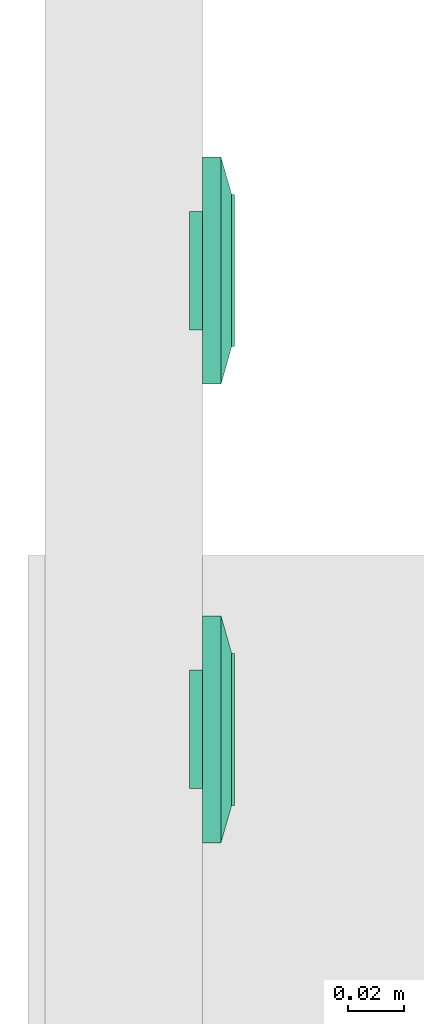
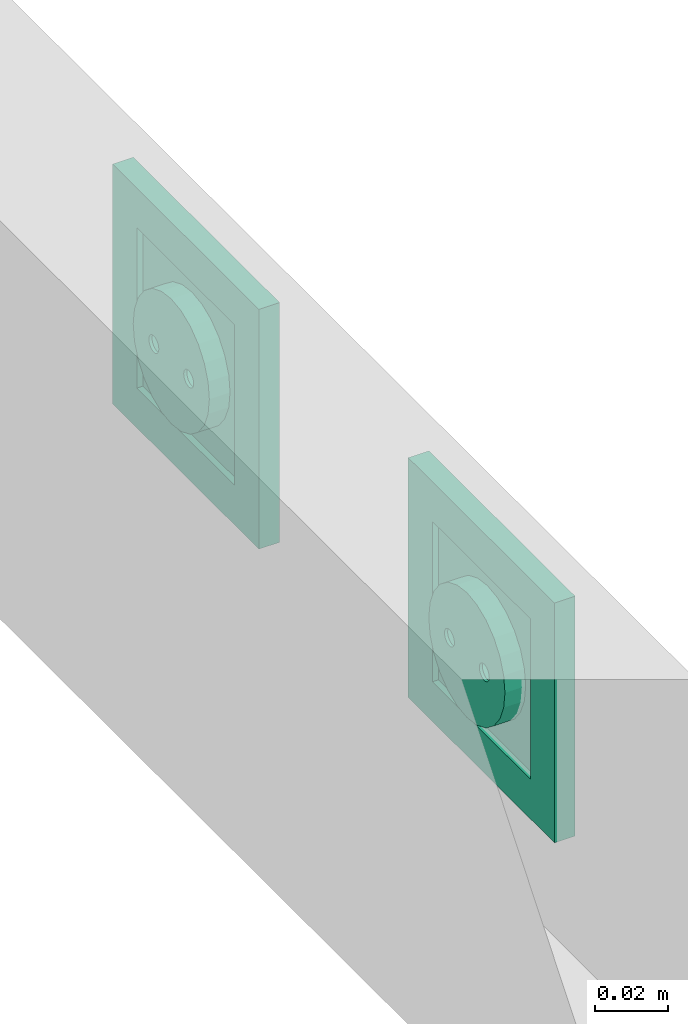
# One storey, part 24 of 166: 2 flow terminals.
"""IFC2X3 building model written with IfcOpenShell, lengths in metres."""

from ifc_helpers import new_model, entity, si_unit, converted_unit, derived_unit, direction, frame, origin, place, context, subcontext, project, spatial, face_set, surface_model, source, transform, mapped, type_object, type_shapes, element, save


model = new_model("IFC2X3")

# Units and contexts
model_context = context("Model", 3, precision=1e-05, world=origin(), true_north=direction((6.12303176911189e-17, 1.0)))
body_context = subcontext(model_context, "Body", "Model", "MODEL_VIEW")
ifc_project = project(units=[si_unit("LENGTHUNIT", "METRE"), si_unit("AREAUNIT", "SQUARE_METRE"), si_unit("VOLUMEUNIT", "CUBIC_METRE"), converted_unit("PLANEANGLEUNIT", "DEGREE", entity("IfcRatioMeasure", 0.0174532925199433), si_unit("PLANEANGLEUNIT", "RADIAN"), dimensions=[0, 0, 0, 0, 0, 0, 0]), si_unit("MASSUNIT", "GRAM", prefix="KILO"), derived_unit("MASSDENSITYUNIT", [(si_unit("MASSUNIT", "GRAM", prefix="KILO"), 1), (si_unit("LENGTHUNIT", "METRE"), -3)]), si_unit("TIMEUNIT", "SECOND"), si_unit("FREQUENCYUNIT", "HERTZ"), si_unit("THERMODYNAMICTEMPERATUREUNIT", "DEGREE_CELSIUS"), derived_unit("THERMALTRANSMITTANCEUNIT", [(si_unit("MASSUNIT", "GRAM", prefix="KILO"), 1), (si_unit("THERMODYNAMICTEMPERATUREUNIT", "KELVIN"), -1), (si_unit("TIMEUNIT", "SECOND"), -3)]), derived_unit("VOLUMETRICFLOWRATEUNIT", [(si_unit("LENGTHUNIT", "METRE"), 3), (si_unit("TIMEUNIT", "SECOND"), -1)]), si_unit("ELECTRICCURRENTUNIT", "AMPERE"), si_unit("ELECTRICVOLTAGEUNIT", "VOLT"), si_unit("POWERUNIT", "WATT"), si_unit("FORCEUNIT", "NEWTON"), si_unit("ILLUMINANCEUNIT", "LUX"), si_unit("LUMINOUSFLUXUNIT", "LUMEN"), si_unit("LUMINOUSINTENSITYUNIT", "CANDELA"), derived_unit("USERDEFINED", [(si_unit("MASSUNIT", "GRAM", prefix="KILO"), -1), (si_unit("LENGTHUNIT", "METRE"), -2), (si_unit("TIMEUNIT", "SECOND"), 3), (si_unit("LUMINOUSFLUXUNIT", "LUMEN"), 1)]), derived_unit("LINEARVELOCITYUNIT", [(si_unit("LENGTHUNIT", "METRE"), 1), (si_unit("TIMEUNIT", "SECOND"), -1)]), si_unit("PRESSUREUNIT", "PASCAL"), derived_unit("USERDEFINED", [(si_unit("LENGTHUNIT", "METRE"), -2), (si_unit("MASSUNIT", "GRAM", prefix="KILO"), 1), (si_unit("TIMEUNIT", "SECOND"), -2)])], contexts=[model_context])

# Site, building, storey
site_placement = place(None, origin())
site = spatial("IfcSite", under=ifc_project, at=site_placement, Name="Default", CompositionType="ELEMENT")
building_placement = place(site_placement, origin())
building = spatial("IfcBuilding", under=site, at=building_placement, CompositionType="ELEMENT")
storey_placement = place(building_placement, frame((0.0, 0.0, 4.27)))
storey = spatial("IfcBuildingStorey", under=building, at=storey_placement, Name="01", CompositionType="ELEMENT", Elevation=4.27)

# Flow terminals
light_fixture_type = type_object("IfcLightFixtureType", Name="IP20 ONDULEE", PredefinedType="NOTDEFINED")
shared_shape = source(origin(), body_context, "Body", "SurfaceModel", [
    surface_model("IfcFaceBasedSurfaceModel", [(-0.00225000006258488, 0.0127499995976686, 0.00949633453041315), (0.0, 0.0104999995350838, 0.00949633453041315), (0.0, 0.0115376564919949, 0.0101656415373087), (0.0, 0.0139623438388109, 0.0101656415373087), (0.0, 0.0144589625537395, 0.00984531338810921), (0.0, 0.0121178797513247, 0.0102778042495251), (0.0, 0.0133821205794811, 0.0102778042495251), (0.0, 0.0127499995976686, 0.010399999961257), (0.0, 0.0149999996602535, 0.00949633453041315), (0.00225000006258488, 0.0127499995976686, 0.00949633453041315), (0.0, 0.0110410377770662, 0.00984531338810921), (0.0, 0.0127499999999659, 0.00949633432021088), (0.00225000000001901, 0.0127499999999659, 0.00949633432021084), (0.00217333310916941, 0.0121676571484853, 0.00949633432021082), (0.00194855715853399, 0.0116249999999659, 0.00949633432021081), (0.00159099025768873, 0.0111590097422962, 0.00949633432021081), (0.001125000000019, 0.010801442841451, 0.00949633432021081), (0.00058234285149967, 0.0105766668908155, 0.00949633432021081), (0.0, 0.0104999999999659, 0.00949633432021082), (-0.000582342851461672, 0.0105766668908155, 0.00949633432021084), (-0.001124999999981, 0.010801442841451, 0.00949633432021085), (-0.00159099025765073, 0.0111590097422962, 0.00949633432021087), (-0.00194855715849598, 0.011624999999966, 0.00949633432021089), (-0.0021733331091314, 0.0121676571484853, 0.00949633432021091), (-0.00224999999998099, 0.012749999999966, 0.00949633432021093), (-0.00217333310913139, 0.0133323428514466, 0.00949633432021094), (-0.00194855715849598, 0.013874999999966, 0.00949633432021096), (-0.00159099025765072, 0.0143409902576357, 0.00949633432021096), (-0.00112499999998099, 0.0146985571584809, 0.00949633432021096), (-0.00058234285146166, 0.0149233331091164, 0.00949633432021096), (0.0, 0.0149999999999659, 0.00949633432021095), (0.000582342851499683, 0.0149233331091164, 0.00949633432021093), (0.00112500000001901, 0.0146985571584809, 0.00949633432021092), (0.00159099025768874, 0.0143409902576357, 0.00949633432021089), (0.001948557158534, 0.0138749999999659, 0.00949633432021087), (0.00217333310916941, 0.0133323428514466, 0.00949633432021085), (0.00225000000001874, 0.0127499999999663, -0.00360000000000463), (0.00217333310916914, 0.0121676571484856, -0.00360000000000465), (0.00194855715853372, 0.0116249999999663, -0.00360000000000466), (0.00159099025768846, 0.0111590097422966, -0.00360000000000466), (0.00112500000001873, 0.0108014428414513, -0.00360000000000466), (0.000582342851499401, 0.0105766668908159, -0.00360000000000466), (0.0, 0.0104999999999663, -0.00360000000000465), (-0.000582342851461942, 0.0105766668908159, -0.00360000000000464), (-0.00112499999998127, 0.0108014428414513, -0.00360000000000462), (-0.001590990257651, 0.0111590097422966, -0.0036000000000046), (-0.00194855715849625, 0.0116249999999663, -0.00360000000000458), (-0.00217333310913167, 0.0121676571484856, -0.00360000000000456), (-0.00224999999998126, 0.0127499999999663, -0.00360000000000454), (-0.00217333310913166, 0.013332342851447, -0.00360000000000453), (-0.00194855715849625, 0.0138749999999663, -0.00360000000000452), (-0.00159099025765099, 0.014340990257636, -0.00360000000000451), (-0.00112499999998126, 0.0146985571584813, -0.00360000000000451), (-0.000582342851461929, 0.0149233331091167, -0.00360000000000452), (0.0, 0.0149999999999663, -0.00360000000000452), (0.000582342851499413, 0.0149233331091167, -0.00360000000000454), (0.00112500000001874, 0.0146985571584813, -0.00360000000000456), (0.00159099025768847, 0.014340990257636, -0.00360000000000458), (0.00194855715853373, 0.0138749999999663, -0.0036000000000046), (0.00217333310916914, 0.013332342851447, -0.00360000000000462), (0.0270000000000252, 0.026999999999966, 0.0113999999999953), (-0.0269999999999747, 0.026999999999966, 0.0113999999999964), (-0.0269999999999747, -0.0270000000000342, 0.0113999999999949), (0.0270000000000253, -0.0270000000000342, 0.0113999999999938), (-0.0199999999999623, 0.0, 0.0113999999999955), (-0.0193185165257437, -0.00517638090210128, 0.0113999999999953), (-0.0173205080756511, -0.0100000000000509, 0.0113999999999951), (-0.0141421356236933, -0.0141421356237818, 0.011399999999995), (-0.00999999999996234, -0.0173205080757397, 0.0113999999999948), (-0.00517638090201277, -0.0193185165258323, 0.0113999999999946), (0.0, -0.0200000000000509, 0.0113999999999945), (0.00517638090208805, -0.0193185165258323, 0.0113999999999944), (0.0100000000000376, -0.0173205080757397, 0.0113999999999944), (0.0141421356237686, -0.0141421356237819, 0.0113999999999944), (0.0173205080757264, -0.010000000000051, 0.0113999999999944), (0.0193185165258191, -0.00517638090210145, 0.0113999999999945), (0.0200000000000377, 0.0, 0.0113999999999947), (0.0193185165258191, 0.00517638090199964, 0.0113999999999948), (0.0173205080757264, 0.0099999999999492, 0.011399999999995), (0.0141421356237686, 0.0141421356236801, 0.0113999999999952), (0.0100000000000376, 0.0173205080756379, 0.0113999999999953), (0.00517638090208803, 0.0193185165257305, 0.0113999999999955), (0.0, 0.0199999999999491, 0.0113999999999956), (-0.00517638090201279, 0.0193185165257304, 0.0113999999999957), (-0.00999999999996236, 0.0173205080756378, 0.0113999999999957), (-0.0141421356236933, 0.01414213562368, 0.0113999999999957), (-0.0173205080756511, 0.00999999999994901, 0.0113999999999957), (-0.0193185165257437, 0.00517638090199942, 0.0113999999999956), (0.0270000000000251, 0.0269999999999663, 0.00199999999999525), (0.0270000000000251, -0.0270000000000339, 0.00199999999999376), (-0.0269999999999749, -0.0270000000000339, 0.00199999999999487), (-0.0269999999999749, 0.0269999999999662, 0.00199999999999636), (0.0210000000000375, 0.0, 0.00199999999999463), (0.0202844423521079, -0.00543519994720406, 0.00199999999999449), (0.0181865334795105, -0.0105000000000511, 0.0019999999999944), (0.0148492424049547, -0.0148492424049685, 0.00199999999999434), (0.0105000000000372, -0.0181865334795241, 0.00199999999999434), (0.0054351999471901, -0.0202844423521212, 0.00199999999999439), (0.0, -0.0210000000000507, 0.00199999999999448), (-0.00543519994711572, -0.020284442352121, 0.00199999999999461), (-0.0104999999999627, -0.0181865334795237, 0.00199999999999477), (-0.0148492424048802, -0.014849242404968, 0.00199999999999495), (-0.0181865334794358, -0.0105000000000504, 0.00199999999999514), (-0.020284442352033, -0.00543519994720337, 0.00199999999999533), (-0.0209999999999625, 0.0, 0.00199999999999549), (-0.0202844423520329, 0.0054351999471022, 0.00199999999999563), (-0.0181865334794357, 0.0104999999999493, 0.00199999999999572), (-0.01484924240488, 0.0148492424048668, 0.00199999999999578), (-0.0104999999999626, 0.0181865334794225, 0.00199999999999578), (-0.00543519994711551, 0.0202844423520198, 0.00199999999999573), (0.0, 0.0209999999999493, 0.00199999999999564), (0.00543519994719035, 0.0202844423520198, 0.00199999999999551), (0.0105000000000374, 0.0181865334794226, 0.00199999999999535), (0.0148492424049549, 0.0148492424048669, 0.00199999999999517), (0.0181865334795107, 0.0104999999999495, 0.00199999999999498), (0.0202844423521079, 0.00543519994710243, 0.00199999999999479), (0.0200000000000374, 0.0, -0.00360000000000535), (0.0193185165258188, -0.00517638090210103, -0.00360000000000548), (0.0173205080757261, -0.0100000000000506, -0.00360000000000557), (0.0141421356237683, -0.0141421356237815, -0.00360000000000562), (0.0100000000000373, -0.0173205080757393, -0.00360000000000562), (0.00517638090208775, -0.0193185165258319, -0.00360000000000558), (0.0, -0.0200000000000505, -0.00360000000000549), (-0.00517638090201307, -0.0193185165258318, -0.00360000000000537), (-0.00999999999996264, -0.0173205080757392, -0.00360000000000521), (-0.0141421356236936, -0.0141421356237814, -0.00360000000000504), (-0.0173205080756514, -0.0100000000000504, -0.00360000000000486), (-0.019318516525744, -0.00517638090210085, -0.00360000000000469), (-0.0199999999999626, 0.0, -0.00360000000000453), (-0.0193185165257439, 0.00517638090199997, -0.0036000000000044), (-0.0173205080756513, 0.00999999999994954, -0.00360000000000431), (-0.0141421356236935, 0.0141421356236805, -0.00360000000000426), (-0.00999999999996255, 0.0173205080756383, -0.00360000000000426), (-0.00517638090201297, 0.0193185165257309, -0.0036000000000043), (0.0, 0.0199999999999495, -0.00360000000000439), (0.00517638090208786, 0.0193185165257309, -0.00360000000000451), (0.0100000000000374, 0.0173205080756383, -0.00360000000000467), (0.0141421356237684, 0.0141421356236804, -0.00360000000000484), (0.0173205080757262, 0.0099999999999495, -0.00360000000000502), (0.0193185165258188, 0.00517638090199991, -0.00360000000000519), (-0.0123499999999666, 0.0, -0.00360000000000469), (-0.0122562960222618, -0.000711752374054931, -0.00360000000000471), (-0.0119815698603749, -0.00137500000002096, -0.00360000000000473), (-0.0115445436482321, -0.00194454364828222, -0.00360000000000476), (-0.0109749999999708, -0.00238156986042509, -0.00360000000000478), (-0.0103117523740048, -0.00265629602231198, -0.0036000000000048), (-0.00959999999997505, -0.00275000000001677, -0.00360000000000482), (-0.0088882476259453, -0.00265629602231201, -0.00360000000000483), (-0.00822499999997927, -0.00238156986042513, -0.00360000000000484), (-0.00765545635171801, -0.00194454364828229, -0.00360000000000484), (-0.00721843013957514, -0.00137500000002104, -0.00360000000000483), (-0.00694370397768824, -0.000711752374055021, -0.00360000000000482), (-0.00684999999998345, 0.0, -0.0036000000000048), (-0.00694370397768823, 0.000711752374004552, -0.00360000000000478), (-0.00721843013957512, 0.00137499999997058, -0.00360000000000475), (-0.00765545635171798, 0.00194454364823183, -0.00360000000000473), (-0.00822499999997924, 0.00238156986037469, -0.0036000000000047), (-0.00888824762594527, 0.00265629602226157, -0.00360000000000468), (-0.00959999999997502, 0.00274999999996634, -0.00360000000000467), (-0.0103117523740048, 0.00265629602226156, -0.00360000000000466), (-0.0109749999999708, 0.00238156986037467, -0.00360000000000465), (-0.011544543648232, 0.00194454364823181, -0.00360000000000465), (-0.0119815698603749, 0.00137499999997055, -0.00360000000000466), (-0.0122562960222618, 0.000711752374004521, -0.00360000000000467), (0.00685000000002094, 0.0, -0.00360000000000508), (0.0069437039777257, -0.00071175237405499, -0.0036000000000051), (0.00721843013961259, -0.00137500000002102, -0.00360000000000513), (0.00765545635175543, -0.00194454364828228, -0.00360000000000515), (0.00822500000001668, -0.00238156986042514, -0.00360000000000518), (0.00888824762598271, -0.00265629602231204, -0.0036000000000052), (0.00960000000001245, -0.00275000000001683, -0.00360000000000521), (0.0103117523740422, -0.00265629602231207, -0.00360000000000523), (0.0109750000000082, -0.00238156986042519, -0.00360000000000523), (0.0115445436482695, -0.00194454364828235, -0.00360000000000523), (0.0119815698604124, -0.0013750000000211, -0.00360000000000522), (0.0122562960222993, -0.00071175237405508, -0.00360000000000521), (0.012350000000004, 0.0, -0.00360000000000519), (0.0122562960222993, 0.000711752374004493, -0.00360000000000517), (0.0119815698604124, 0.00137499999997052, -0.00360000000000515), (0.0115445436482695, 0.00194454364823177, -0.00360000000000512), (0.0109750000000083, 0.00238156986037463, -0.0036000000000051), (0.0103117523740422, 0.00265629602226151, -0.00360000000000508), (0.00960000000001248, 0.00274999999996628, -0.00360000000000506), (0.00888824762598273, 0.0026562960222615, -0.00360000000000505), (0.0082250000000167, 0.00238156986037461, -0.00360000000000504), (0.00765545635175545, 0.00194454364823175, -0.00360000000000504), (0.0072184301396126, 0.00137499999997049, -0.00360000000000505), (0.00694370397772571, 0.000711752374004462, -0.00360000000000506), (0.0210000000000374, 0.0, -0.00460000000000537), (0.0202844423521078, -0.00543519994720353, -0.00460000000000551), (0.0181865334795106, -0.0105000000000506, -0.0046000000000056), (0.0148492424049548, -0.0148492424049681, -0.00460000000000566), (0.0105000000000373, -0.0181865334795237, -0.00460000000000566), (0.00543519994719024, -0.0202844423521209, -0.00460000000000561), (0.0, -0.0210000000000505, -0.00460000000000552), (-0.00543519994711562, -0.0202844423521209, -0.00460000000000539), (-0.0104999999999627, -0.0181865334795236, -0.00460000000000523), (-0.0148492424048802, -0.0148492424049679, -0.00460000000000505), (-0.0181865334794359, -0.0105000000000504, -0.00460000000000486), (-0.0202844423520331, -0.00543519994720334, -0.00460000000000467), (-0.0209999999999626, 0.0, -0.00460000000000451), (-0.020284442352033, 0.00543519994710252, -0.00460000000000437), (-0.0181865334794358, 0.0104999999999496, -0.00460000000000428), (-0.0148492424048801, 0.0148492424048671, -0.00460000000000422), (-0.0104999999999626, 0.0181865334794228, -0.00460000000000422), (-0.00543519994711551, 0.02028444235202, -0.00460000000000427), (0.0, 0.0209999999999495, -0.00460000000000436), (0.00543519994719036, 0.02028444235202, -0.00460000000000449), (0.0105000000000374, 0.0181865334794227, -0.00460000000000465), (0.0148492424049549, 0.014849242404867, -0.00460000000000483), (0.0181865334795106, 0.0104999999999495, -0.00460000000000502), (0.0202844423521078, 0.00543519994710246, -0.00460000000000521), (-0.00684999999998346, 0.0, -0.0046000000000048), (-0.00694370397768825, 0.000711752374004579, -0.00460000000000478), (-0.00721843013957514, 0.00137499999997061, -0.00460000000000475), (-0.007655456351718, 0.00194454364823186, -0.00460000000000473), (-0.00822499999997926, 0.00238156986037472, -0.0046000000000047), (-0.00888824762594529, 0.0026562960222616, -0.00460000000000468), (-0.00959999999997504, 0.00274999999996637, -0.00460000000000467), (-0.0103117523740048, 0.00265629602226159, -0.00460000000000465), (-0.0109749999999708, 0.0023815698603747, -0.00460000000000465), (-0.0115445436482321, 0.00194454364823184, -0.00460000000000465), (-0.0119815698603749, 0.00137499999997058, -0.00460000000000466), (-0.0122562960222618, 0.000711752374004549, -0.00460000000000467), (-0.0123499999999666, 0.0, -0.00460000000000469), (-0.0122562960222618, -0.000711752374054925, -0.00460000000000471), (-0.0119815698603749, -0.00137500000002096, -0.00460000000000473), (-0.0115445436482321, -0.00194454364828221, -0.00460000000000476), (-0.0109749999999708, -0.00238156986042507, -0.00460000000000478), (-0.0103117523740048, -0.00265629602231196, -0.0046000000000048), (-0.00959999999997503, -0.00275000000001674, -0.00460000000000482), (-0.00888824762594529, -0.00265629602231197, -0.00460000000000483), (-0.00822499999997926, -0.00238156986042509, -0.00460000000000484), (-0.007655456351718, -0.00194454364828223, -0.00460000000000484), (-0.00721843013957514, -0.00137500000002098, -0.00460000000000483), (-0.00694370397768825, -0.000711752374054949, -0.00460000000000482), (0.012350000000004, 0.0, -0.00460000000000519), (0.0122562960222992, 0.000711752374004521, -0.00460000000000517), (0.0119815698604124, 0.00137499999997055, -0.00460000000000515), (0.0115445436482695, 0.0019445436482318, -0.00460000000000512), (0.0109750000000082, 0.00238156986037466, -0.0046000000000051), (0.0103117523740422, 0.00265629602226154, -0.00460000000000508), (0.00960000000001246, 0.00274999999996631, -0.00460000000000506), (0.00888824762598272, 0.00265629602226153, -0.00460000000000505), (0.00822500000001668, 0.00238156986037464, -0.00460000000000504), (0.00765545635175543, 0.00194454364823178, -0.00460000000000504), (0.00721843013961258, 0.00137499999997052, -0.00460000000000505), (0.00694370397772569, 0.00071175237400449, -0.00460000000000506), (0.00685000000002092, 0.0, -0.00460000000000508), (0.00694370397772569, -0.000711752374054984, -0.0046000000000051), (0.00721843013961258, -0.00137500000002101, -0.00460000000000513), (0.00765545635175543, -0.00194454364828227, -0.00460000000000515), (0.00822500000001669, -0.00238156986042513, -0.00460000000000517), (0.00888824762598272, -0.00265629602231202, -0.0046000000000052), (0.00960000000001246, -0.0027500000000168, -0.00460000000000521), (0.0103117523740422, -0.00265629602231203, -0.00460000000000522), (0.0109750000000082, -0.00238156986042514, -0.00460000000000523), (0.0115445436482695, -0.00194454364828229, -0.00460000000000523), (0.0119815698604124, -0.00137500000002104, -0.00460000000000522), (0.0122562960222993, -0.000711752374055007, -0.00460000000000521), (0.040350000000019, 0.0403499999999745, 0.00659999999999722), (0.040350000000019, -0.0403500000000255, 0.00659999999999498), (-0.0403499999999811, -0.0403500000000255, 0.00659999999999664), (-0.0403499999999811, 0.0403499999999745, 0.00659999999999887), (0.027000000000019, 0.0269999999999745, 0.00659999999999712), (-0.0269999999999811, 0.0269999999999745, 0.00659999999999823), (-0.026999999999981, -0.0270000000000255, 0.00659999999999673), (0.027000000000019, -0.0270000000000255, 0.00659999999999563), (0.027000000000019, 0.0269999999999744, 0.0103999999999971), (-0.026999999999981, 0.0269999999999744, 0.0103999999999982), (-0.026999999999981, -0.0270000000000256, 0.0103999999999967), (0.027000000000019, -0.0270000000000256, 0.0103999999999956), (0.040350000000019, 0.0403499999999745, 0.00659999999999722), (0.040350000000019, -0.0403500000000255, 0.00659999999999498), (-0.0403499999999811, -0.0403500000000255, 0.00659999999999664), (-0.0403499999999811, 0.0403499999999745, 0.00659999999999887), (-0.0269999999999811, 0.0269999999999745, 0.00659999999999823), (-0.0269999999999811, -0.0270000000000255, 0.00659999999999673), (0.0270000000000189, -0.0270000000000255, 0.00659999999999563), (0.0270000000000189, 0.0269999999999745, 0.00659999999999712), (0.0403500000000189, 0.0403499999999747, 0.0), (0.0403500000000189, -0.0403500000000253, 0.0), (-0.0403499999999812, -0.0403500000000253, 0.0), (-0.0403499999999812, 0.0403499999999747, 0.0), (0.0270000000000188, 0.0269999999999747, 0.0), (-0.0269999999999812, 0.0269999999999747, 0.0), (-0.0269999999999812, -0.0270000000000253, 0.0), (0.0270000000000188, -0.0270000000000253, 0.0)], [face_set([[[0, 1, 2]], [[3, 4, 2, 5]], [[6, 3, 5, 7]], [[2, 4, 0]], [[4, 8, 0]], [[3, 9, 8]], [[1, 9, 10]], [[2, 3, 6, 7]], [[3, 10, 9]], [[2, 10, 3]], [[11, 1, 0, 8]], [[11, 8, 9, 1]]]), face_set([[[12, 13, 14, 15, 16, 17, 18, 19, 20, 21, 22, 23, 24, 25, 26, 27, 28, 29, 30, 31, 32, 33, 34, 35]], [[36, 37, 38, 39, 40, 41, 42, 43, 44, 45, 46, 47, 48, 49, 50, 51, 52, 53, 54, 55, 56, 57, 58, 59]], [[48, 47, 23, 24]], [[47, 46, 22, 23]], [[45, 44, 20, 21]], [[46, 45, 21, 22]], [[44, 43, 19, 20]], [[18, 19, 43, 42]], [[42, 41, 17, 18]], [[41, 40, 16, 17]], [[39, 38, 14, 15]], [[40, 39, 15, 16]], [[38, 37, 13, 14]], [[12, 13, 37, 36]], [[36, 59, 35, 12]], [[59, 58, 34, 35]], [[57, 56, 32, 33]], [[58, 57, 33, 34]], [[56, 55, 31, 32]], [[30, 31, 55, 54]], [[54, 53, 29, 30]], [[53, 52, 28, 29]], [[51, 50, 26, 27]], [[52, 51, 27, 28]], [[50, 49, 25, 26]], [[24, 25, 49, 48]]]), face_set([[[60, 61, 62, 63], [64, 65, 66, 67, 68, 69, 70, 71, 72, 73, 74, 75, 76, 77, 78, 79, 80, 81, 82, 83, 84, 85, 86, 87]], [[88, 89, 90, 91], [92, 93, 94, 95, 96, 97, 98, 99, 100, 101, 102, 103, 104, 105, 106, 107, 108, 109, 110, 111, 112, 113, 114, 115]], [[61, 60, 88, 91]], [[62, 61, 91, 90]], [[63, 62, 90, 89]], [[60, 63, 89, 88]], [[116, 117, 118, 119, 120, 121, 122, 123, 124, 125, 126, 127, 128, 129, 130, 131, 132, 133, 134, 135, 136, 137, 138, 139], [140, 141, 142, 143, 144, 145, 146, 147, 148, 149, 150, 151, 152, 153, 154, 155, 156, 157, 158, 159, 160, 161, 162, 163], [164, 165, 166, 167, 168, 169, 170, 171, 172, 173, 174, 175, 176, 177, 178, 179, 180, 181, 182, 183, 184, 185, 186, 187]], [[64, 128, 127, 65]], [[65, 127, 126, 66]], [[67, 125, 124, 68]], [[66, 126, 125, 67]], [[68, 124, 123, 69]], [[122, 70, 69, 123]], [[70, 122, 121, 71]], [[71, 121, 120, 72]], [[73, 119, 118, 74]], [[72, 120, 119, 73]], [[74, 118, 117, 75]], [[116, 76, 75, 117]], [[76, 116, 139, 77]], [[77, 139, 138, 78]], [[79, 137, 136, 80]], [[78, 138, 137, 79]], [[80, 136, 135, 81]], [[134, 82, 81, 135]], [[82, 134, 133, 83]], [[83, 133, 132, 84]], [[84, 132, 131, 85]], [[85, 131, 130, 86]], [[130, 129, 87, 86]], [[64, 87, 129, 128]], [[188, 189, 190, 191, 192, 193, 194, 195, 196, 197, 198, 199, 200, 201, 202, 203, 204, 205, 206, 207, 208, 209, 210, 211], [212, 213, 214, 215, 216, 217, 218, 219, 220, 221, 222, 223, 224, 225, 226, 227, 228, 229, 230, 231, 232, 233, 234, 235], [236, 237, 238, 239, 240, 241, 242, 243, 244, 245, 246, 247, 248, 249, 250, 251, 252, 253, 254, 255, 256, 257, 258, 259]], [[200, 199, 103, 104]], [[199, 198, 102, 103]], [[197, 196, 100, 101]], [[198, 197, 101, 102]], [[196, 195, 99, 100]], [[98, 99, 195, 194]], [[194, 193, 97, 98]], [[193, 192, 96, 97]], [[191, 190, 94, 95]], [[192, 191, 95, 96]], [[190, 189, 93, 94]], [[92, 93, 189, 188]], [[188, 211, 115, 92]], [[211, 210, 114, 115]], [[209, 208, 112, 113]], [[210, 209, 113, 114]], [[208, 207, 111, 112]], [[110, 111, 207, 206]], [[206, 205, 109, 110]], [[205, 204, 108, 109]], [[203, 202, 106, 107]], [[204, 203, 107, 108]], [[202, 201, 105, 106]], [[104, 105, 201, 200]], [[141, 225, 226, 142]], [[140, 224, 225, 141]], [[144, 228, 229, 145]], [[143, 227, 228, 144]], [[142, 226, 227, 143]], [[230, 146, 145, 229]], [[149, 233, 232, 148]], [[148, 232, 231, 147]], [[152, 212, 235, 151]], [[151, 235, 234, 150]], [[150, 234, 233, 149]], [[146, 230, 231, 147]], [[154, 214, 213, 153]], [[153, 213, 212, 152]], [[157, 217, 216, 156]], [[156, 216, 215, 155]], [[155, 215, 214, 154]], [[218, 158, 157, 217]], [[160, 220, 221, 161]], [[159, 219, 220, 160]], [[163, 223, 224, 140]], [[162, 222, 223, 163]], [[161, 221, 222, 162]], [[158, 218, 219, 159]], [[166, 250, 249, 165]], [[165, 249, 248, 164]], [[169, 253, 252, 168]], [[168, 252, 251, 167]], [[167, 251, 250, 166]], [[254, 170, 169, 253]], [[172, 256, 257, 173]], [[171, 255, 256, 172]], [[175, 259, 236, 176]], [[174, 258, 259, 175]], [[173, 257, 258, 174]], [[170, 254, 255, 171]], [[177, 237, 238, 178]], [[176, 236, 237, 177]], [[180, 240, 241, 181]], [[179, 239, 240, 180]], [[178, 238, 239, 179]], [[242, 182, 181, 241]], [[185, 245, 244, 184]], [[184, 244, 243, 183]], [[164, 248, 247, 187]], [[187, 247, 246, 186]], [[186, 246, 245, 185]], [[182, 242, 243, 183]]]), face_set([[[260, 261, 262, 263], [264, 265, 266, 267]], [[260, 268, 269, 263]], [[263, 269, 270, 262]], [[262, 270, 271, 261]], [[261, 271, 268, 260]], [[264, 265, 269, 268]], [[265, 266, 270, 269]], [[266, 267, 271, 270]], [[268, 271, 267, 264]]]), face_set([[[272, 273, 274, 275], [276, 277, 278, 279]], [[280, 281, 282, 283], [284, 285, 286, 287]], [[275, 272, 280, 283]], [[274, 275, 283, 282]], [[273, 274, 282, 281]], [[272, 273, 281, 280]], [[284, 285, 276, 279]], [[285, 286, 277, 276]], [[286, 287, 278, 277]], [[279, 278, 287, 284]]])]),
])
type_shapes(light_fixture_type, [shared_shape])
for number, where, z_axis, x_axis in (
    (1, (26.1797436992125, -189.308109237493, 4.70800000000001), (1.0, 0.0, 0.0), (0.0, 1.0, 0.0)),
    (2, (26.1797436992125, -189.145109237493, 4.70800000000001), (1.0, 0.0, 0.0), (0.0, 1.0, 0.0)),
):
    element("IfcFlowTerminal", number, at=place(building_placement, frame(where, z_axis=z_axis, x_axis=x_axis)), inside=storey, type_object=light_fixture_type, Name="INT Prise de courant:IP20 ONDULEE", ObjectType="INT Prise de courant:IP20 ONDULEE", context=body_context, shape_type="MappedRepresentation", body=[
        mapped(shared_shape, transform((0.0, 0.0, 0.0), scale=1.0)),
    ])

save(model, "model.ifc")
